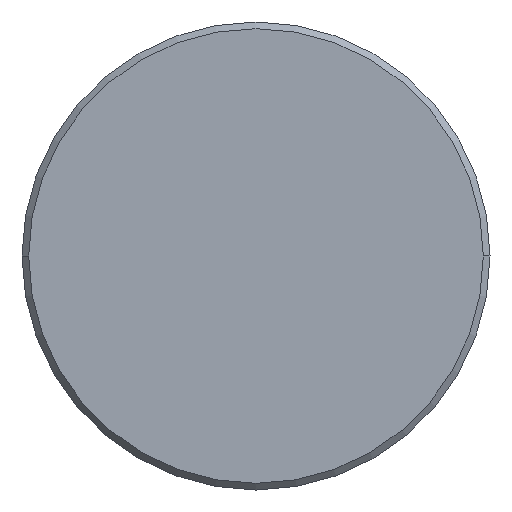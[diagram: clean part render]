
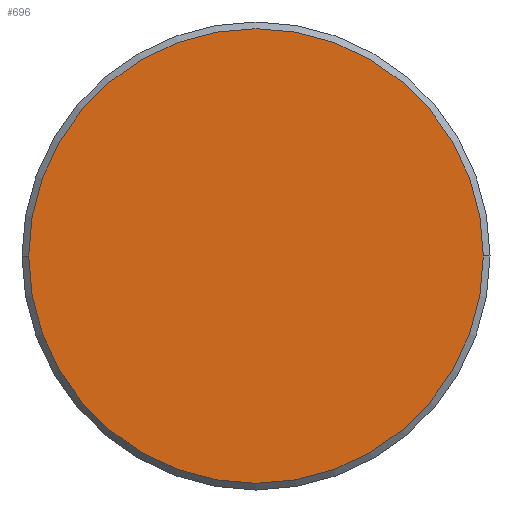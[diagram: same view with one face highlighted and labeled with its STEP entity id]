
A CAD part, front view. The second image highlights one B-rep face of the part: STEP entity #696.
In plain terms, the highlighted planar face has unit normal (0, -1, 0).
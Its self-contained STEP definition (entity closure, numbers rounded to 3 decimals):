
#4 = CARTESIAN_POINT ( 'NONE',  ( 17., -6., 0. ) ) ;
#25 = AXIS2_PLACEMENT_3D ( 'NONE', #141, #232, #658 ) ;
#48 = AXIS2_PLACEMENT_3D ( 'NONE', #355, #522, #80 ) ;
#52 = PLANE ( 'NONE',  #161 ) ;
#61 = FACE_OUTER_BOUND ( 'NONE', #163, .T. ) ;
#80 = DIRECTION ( 'NONE',  ( -1., 0., 0. ) ) ;
#141 = CARTESIAN_POINT ( 'NONE',  ( 0., -6., 0. ) ) ;
#161 = AXIS2_PLACEMENT_3D ( 'NONE', #814, #608, #687 ) ;
#163 = EDGE_LOOP ( 'NONE', ( #672, #509 ) ) ;
#232 = DIRECTION ( 'NONE',  ( 0., -1., 0. ) ) ;
#355 = CARTESIAN_POINT ( 'NONE',  ( 0., -6., 0. ) ) ;
#419 = CIRCLE ( 'NONE', #25, 17. ) ;
#427 = EDGE_CURVE ( 'NONE', #475, #451, #654, .T. ) ;
#451 = VERTEX_POINT ( 'NONE', #4 ) ;
#475 = VERTEX_POINT ( 'NONE', #713 ) ;
#509 = ORIENTED_EDGE ( 'NONE', *, *, #538, .T. ) ;
#522 = DIRECTION ( 'NONE',  ( 0., -1., 0. ) ) ;
#538 = EDGE_CURVE ( 'NONE', #451, #475, #419, .T. ) ;
#608 = DIRECTION ( 'NONE',  ( 0., 1., 0. ) ) ;
#654 = CIRCLE ( 'NONE', #48, 17. ) ;
#658 = DIRECTION ( 'NONE',  ( -1., 0., 0. ) ) ;
#672 = ORIENTED_EDGE ( 'NONE', *, *, #427, .T. ) ;
#687 = DIRECTION ( 'NONE',  ( -1., 0., 0. ) ) ;
#696 = ADVANCED_FACE ( 'NONE', ( #61 ), #52, .F. ) ;
#713 = CARTESIAN_POINT ( 'NONE',  ( -17., -6., 0. ) ) ;
#814 = CARTESIAN_POINT ( 'NONE',  ( 0., -6., 0. ) ) ;
